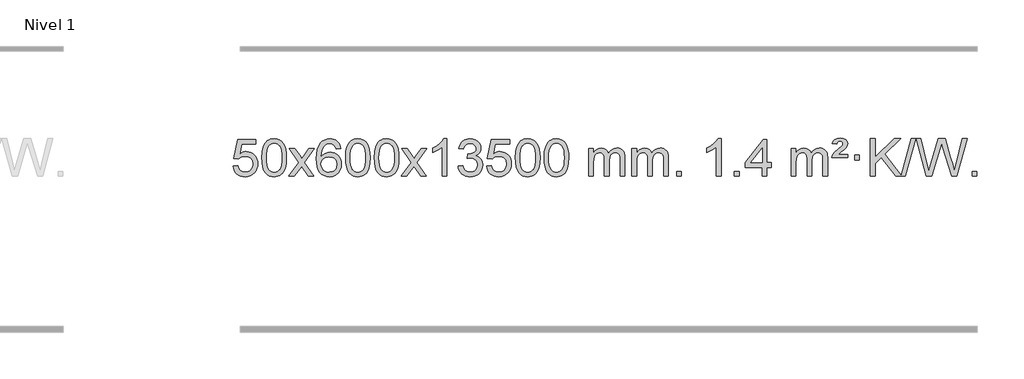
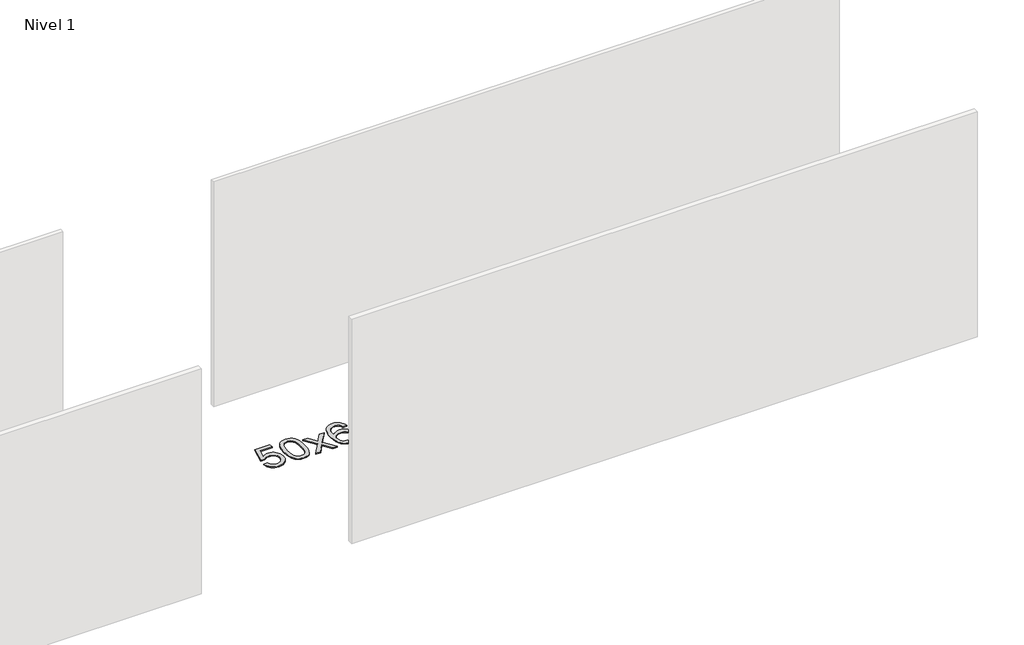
# One storey, part 10 of 12: 1 proxy.
"""IFC4 building model written with IfcOpenShell, lengths in millimetres."""

from ifc_helpers import new_model, si_unit, origin, origin_with_axes, place, context, project, spatial, polyline, outline, extrude, element, save

model = new_model("IFC4")

# Units and contexts
model_context = context("Model", 3, world=origin())
ifc_project = project(units=[si_unit("LENGTHUNIT", "METRE", prefix="MILLI")], contexts=[model_context])

# Site, building, storey
site = spatial("IfcSite", under=ifc_project)
building = spatial("IfcBuilding", under=site)
storey = spatial("IfcBuildingStorey", under=building, Name="Nivel 1", Elevation=0.0)

# Proxy
placement = place(None, origin())
element("IfcBuildingElementProxy", 1, Name="Texto de modelo 1", ObjectType="Texto de modelo 1", at=placement, inside=storey, context=model_context, shape_type="SweptSolid", body=[
    extrude(outline(polyline([(-1909.9934354, -284.8446235), (-1859.7652803, -278.5661041), (-1850.543705, -308.7201649), (-1834.454999, -330.3148381), (-1811.5727389, -343.3010725), (-1781.9705011, -347.6298173), (-1762.8406373, -346.1245668), (-1745.9671165, -341.6088153), (-1731.3499385, -334.0825628), (-1718.9891035, -323.5458094), (-1709.1605228, -310.519721), (-1702.1401081, -295.5254641), (-1696.5237763, -259.6324441), (-1701.7844888, -225.8363514), (-1708.3603795, -211.9181493), (-1717.5666264, -199.9865099), (-1729.4338865, -190.4154467), (-1743.9928164, -183.5789729), (-1781.1856861, -178.1097939), (-1805.5517369, -180.2925604), (-1825.2824746, -186.8408599), (-1841.0400868, -196.8717757), (-1853.4867609, -209.5023908), (-1903.714916, -203.2238715), (-1859.7652803, 3.9672682), (-1665.1311794, 3.9672682), (-1665.1311794, -46.2608869), (-1819.151108, -46.2608869), (-1840.6354166, -156.919791), (-1822.9096358, -144.2155994), (-1804.7546593, -135.1411769), (-1786.1704872, -129.6965234), (-1767.1571194, -127.8816388), (-1742.6960324, -130.1318504), (-1720.2276395, -136.882485), (-1699.7519408, -148.1335427), (-1681.2689362, -163.8850234), (-1665.9681109, -183.1743027), (-1655.03895, -205.038756), (-1648.4814534, -229.4783832), (-1646.2956212, -256.4931844), (-1648.2637899, -282.5147042), (-1654.1682959, -306.7213394), (-1664.0091393, -329.1130902), (-1677.78632, -349.6899565), (-1698.6574919, -370.7634634), (-1723.01128, -385.8159684), (-1750.8476843, -394.8474714), (-1782.1667048, -397.8579724), (-1808.087057, -395.9235262), (-1831.4996803, -390.1201877), (-1852.4045747, -380.447957), (-1870.8017402, -366.9068338), (-1886.1086968, -350.1712688), (-1897.7429649, -330.915712), (-1905.7045445, -309.1401636), (-1909.9934354, -284.8446235)])), origin_with_axes(), (0.0, 0.0, 1.0), 10.0),
    extrude(outline(polyline([(-1602.3459855, -193.9041943), (-1598.6549029, -129.5861588), (-1587.5816548, -78.2911459), (-1569.236606, -39.2343407), (-1557.378543, -24.0009605), (-1543.730121, -11.6309284), (-1528.2453547, -2.0598651), (-1510.8782588, 4.7766086), (-1470.4970785, 10.2457876), (-1439.5459399, 7.008426), (-1411.832163, -2.7036586), (-1388.6555973, -18.5103217), (-1371.3160926, -40.0314184), (-1358.2194935, -67.0830078), (-1347.7716449, -99.4811488), (-1340.9290398, -140.6226186), (-1338.6481714, -193.9041943), (-1342.3024659, -257.8543477), (-1353.2653493, -309.0267333), (-1371.5000336, -348.1203266), (-1383.3305054, -363.3996922), (-1396.9697304, -375.8341036), (-1412.4728908, -385.4695462), (-1429.8951689, -392.3520052), (-1470.4970785, -397.8579724), (-1498.1618045, -395.4667394), (-1522.6872709, -388.2930405), (-1544.0734775, -376.3368757), (-1562.3204245, -359.5982449), (-1579.8316074, -329.3399508), (-1592.3395953, -291.6381776), (-1599.844388, -246.4929255), (-1602.3459855, -193.9041943)]), holes=[polyline([(-1552.1178305, -193.8060924), (-1550.6463025, -237.4706195), (-1546.2317185, -272.8148822), (-1538.8740786, -299.8388804), (-1528.5733828, -318.5426142), (-1516.1144459, -331.2682656), (-1502.2820829, -340.3580165), (-1487.0762937, -345.8118671), (-1470.4970785, -347.6298173), (-1453.9178632, -345.8057357), (-1438.7120741, -340.3334911), (-1424.8797111, -331.2130833), (-1412.4207742, -318.4445124), (-1402.1200783, -299.7101217), (-1394.7624384, -272.6922549), (-1390.3478545, -237.3909118), (-1388.8763265, -193.8060924), (-1390.2988035, -151.2973278), (-1394.5662347, -116.5753989), (-1401.6786199, -89.6403055), (-1411.6359592, -70.4920476), (-1423.8864297, -57.1440625), (-1437.8782082, -47.6097875), (-1453.6112949, -41.8892225), (-1471.0856897, -39.9823675), (-1487.5790658, -41.6623619), (-1502.5273375, -46.7023452), (-1515.9305049, -55.1023175), (-1527.7885679, -66.8622786), (-1538.4326203, -87.708925), (-1546.0355148, -115.8151094), (-1550.5972516, -151.1808319), (-1552.1178305, -193.8060924)])]), origin_with_axes(), (0.0, 0.0, 1.0), 10.0),
    extrude(outline(polyline([(-1313.5340939, -391.579453), (-1206.2106531, -243.2494325), (-1307.2555745, -96.4890419), (-1246.8248254, -96.4890419), (-1198.0681983, -167.122385), (-1175.3085655, -200.4770192), (-1155.5900906, -173.2047007), (-1100.0644348, -96.4890419), (-1039.6336857, -96.4890419), (-1145.7799041, -243.2494325), (-1043.5577603, -391.579453), (-1103.9885094, -391.579453), (-1165.498379, -302.4048574), (-1176.7800935, -286.1199477), (-1253.1033448, -391.579453), (-1313.5340939, -391.579453)])), origin_with_axes(), (0.0, 0.0, 1.0), 10.0),
    extrude(outline(polyline([(-754.7458687, -96.4890419), (-804.9740237, -102.7675613), (-813.0674276, -77.874213), (-824.0057856, -60.8780648), (-846.7899439, -45.2062918), (-874.3320426, -39.9823675), (-897.6802865, -43.0235253), (-919.6551044, -52.1469988), (-938.5274507, -71.3627017), (-953.9417063, -97.8134171), (-964.3527668, -135.227016), (-968.2155277, -187.3313693), (-948.0678571, -163.8237098), (-923.9225355, -147.2567573), (-897.1284635, -137.434308), (-869.0345418, -134.1601582), (-844.9014829, -136.398107), (-822.6323595, -143.1119534), (-802.2271715, -154.3016975), (-783.6859189, -169.9673391), (-768.2777947, -189.1769106), (-757.2719917, -210.9984443), (-750.6685099, -235.4319401), (-748.4673493, -262.4773982), (-752.6121531, -298.4439945), (-765.0465645, -331.786366), (-784.740514, -360.0642287), (-810.6639319, -380.8372987), (-841.6395959, -393.602804), (-876.4902836, -397.8579724), (-906.4328123, -395.0375437), (-933.4752046, -386.5762579), (-957.6174606, -372.4741147), (-978.8595801, -352.7311143), (-996.177625, -326.5133908), (-1008.5476571, -292.9870783), (-1015.9696764, -252.1521768), (-1018.4436828, -204.0086864), (-1015.6968306, -150.0342663), (-1007.4562739, -103.9693092), (-993.7220127, -65.8138149), (-974.4940471, -35.5677835), (-953.6535321, -15.5243462), (-929.4898164, -1.2076052), (-902.0029, 7.3824394), (-871.1927829, 10.2457876), (-848.0591367, 8.4738227), (-827.1205198, 3.1579278), (-808.3769322, -5.7018969), (-791.8283738, -18.1056515), (-777.9224344, -33.6364031), (-767.1067037, -51.8772186), (-759.3811818, -72.8280983), (-754.7458687, -96.4890419)]), holes=[polyline([(-968.2155277, -261.6925832), (-965.30926, -283.9494439), (-956.5904567, -305.2007605), (-943.0523993, -323.472233), (-925.6883691, -336.7895612), (-904.7313581, -344.9197533), (-880.4143582, -347.6298173), (-847.2681904, -342.0134855), (-833.353054, -334.9930708), (-821.2098825, -325.1644901), (-811.359842, -312.9262824), (-804.3240989, -298.6769865), (-798.6955043, -264.1451299), (-804.2505225, -230.9989621), (-811.1942951, -217.3781312), (-820.9155769, -205.725469), (-833.0955366, -196.3904634), (-847.4153432, -189.7226022), (-882.4744974, -184.3883133), (-915.5716142, -189.7226022), (-943.248603, -205.725469), (-954.1716326, -217.2248471), (-961.9737965, -230.3858254), (-966.6550949, -245.2084042), (-968.2155277, -261.6925832)])]), origin_with_axes(), (0.0, 0.0, 1.0), 10.0),
    extrude(outline(polyline([(-704.5177136, -193.9041943), (-700.8266309, -129.5861588), (-689.7533828, -78.2911459), (-671.408334, -39.2343407), (-659.550271, -24.0009605), (-645.901849, -11.6309284), (-630.4170827, -2.0598651), (-613.0499869, 4.7766086), (-572.6688065, 10.2457876), (-541.717668, 7.008426), (-514.003891, -2.7036586), (-490.8273253, -18.5103217), (-473.4878206, -40.0314184), (-460.3912216, -67.0830078), (-449.9433729, -99.4811488), (-443.1007678, -140.6226186), (-440.8198994, -193.9041943), (-444.4741939, -257.8543477), (-455.4370774, -309.0267333), (-473.6717616, -348.1203266), (-485.5022334, -363.3996922), (-499.1414584, -375.8341036), (-514.6446188, -385.4695462), (-532.066897, -392.3520052), (-572.6688065, -397.8579724), (-600.3335326, -395.4667394), (-624.8589989, -388.2930405), (-646.2452055, -376.3368757), (-664.4921525, -359.5982449), (-682.0033355, -329.3399508), (-694.5113233, -291.6381776), (-702.016116, -246.4929255), (-704.5177136, -193.9041943)]), holes=[polyline([(-654.2895585, -193.8060924), (-652.8180305, -237.4706195), (-648.4034466, -272.8148822), (-641.0458067, -299.8388804), (-630.7451108, -318.5426142), (-618.2861739, -331.2682656), (-604.4538109, -340.3580165), (-589.2480218, -345.8118671), (-572.6688065, -347.6298173), (-556.0895913, -345.8057357), (-540.8838021, -340.3334911), (-527.0514391, -331.2130833), (-514.5925022, -318.4445124), (-504.2918063, -299.7101217), (-496.9341664, -272.6922549), (-492.5195825, -237.3909118), (-491.0480545, -193.8060924), (-492.4705316, -151.2973278), (-496.7379627, -116.5753989), (-503.8503479, -89.6403055), (-513.8076873, -70.4920476), (-526.0581577, -57.1440625), (-540.0499363, -47.6097875), (-555.7830229, -41.8892225), (-573.2574177, -39.9823675), (-589.7507938, -41.6623619), (-604.6990656, -46.7023452), (-618.1022329, -55.1023175), (-629.9602959, -66.8622786), (-640.6043483, -87.708925), (-648.2072429, -115.8151094), (-652.7689796, -151.1808319), (-654.2895585, -193.8060924)])]), origin_with_axes(), (0.0, 0.0, 1.0), 10.0),
    extrude(outline(polyline([(-396.8702638, -193.9041943), (-393.1791811, -129.5861588), (-382.105933, -78.2911459), (-363.7608842, -39.2343407), (-351.9028212, -24.0009605), (-338.2543992, -11.6309284), (-322.7696329, -2.0598651), (-305.402537, 4.7766086), (-265.0213567, 10.2457876), (-234.0702182, 7.008426), (-206.3564412, -2.7036586), (-183.1798755, -18.5103217), (-165.8403708, -40.0314184), (-152.7437718, -67.0830078), (-142.2959231, -99.4811488), (-135.453318, -140.6226186), (-133.1724496, -193.9041943), (-136.8267441, -257.8543477), (-147.7896275, -309.0267333), (-166.0243118, -348.1203266), (-177.8547836, -363.3996922), (-191.4940086, -375.8341036), (-206.997169, -385.4695462), (-224.4194471, -392.3520052), (-265.0213567, -397.8579724), (-292.6860827, -395.4667394), (-317.2115491, -388.2930405), (-338.5977557, -376.3368757), (-356.8447027, -359.5982449), (-374.3558856, -329.3399508), (-386.8638735, -291.6381776), (-394.3686662, -246.4929255), (-396.8702638, -193.9041943)]), holes=[polyline([(-346.6421087, -193.8060924), (-345.1705807, -237.4706195), (-340.7559968, -272.8148822), (-333.3983568, -299.8388804), (-323.097661, -318.5426142), (-310.6387241, -331.2682656), (-296.8063611, -340.3580165), (-281.6005719, -345.8118671), (-265.0213567, -347.6298173), (-248.4421414, -345.8057357), (-233.2363523, -340.3334911), (-219.4039893, -331.2130833), (-206.9450524, -318.4445124), (-196.6443565, -299.7101217), (-189.2867166, -272.6922549), (-184.8721327, -237.3909118), (-183.4006047, -193.8060924), (-184.8230817, -151.2973278), (-189.0905129, -116.5753989), (-196.2028981, -89.6403055), (-206.1602375, -70.4920476), (-218.4107079, -57.1440625), (-232.4024864, -47.6097875), (-248.1355731, -41.8892225), (-265.6099679, -39.9823675), (-282.103344, -41.6623619), (-297.0516157, -46.7023452), (-310.4547831, -55.1023175), (-322.3128461, -66.8622786), (-332.9568985, -87.708925), (-340.559793, -115.8151094), (-345.1215298, -151.1808319), (-346.6421087, -193.8060924)])]), origin_with_axes(), (0.0, 0.0, 1.0), 10.0),
    extrude(outline(polyline([(-108.0583721, -391.579453), (-0.7349313, -243.2494325), (-101.7798527, -96.4890419), (-41.3491036, -96.4890419), (7.4075235, -167.122385), (30.1671563, -200.4770192), (49.8856312, -173.2047007), (105.411287, -96.4890419), (165.8420361, -96.4890419), (59.6958177, -243.2494325), (161.9179615, -391.579453), (101.4872124, -391.579453), (39.9773428, -302.4048574), (28.6956283, -286.1199477), (-47.627623, -391.579453), (-108.0583721, -391.579453)])), origin_with_axes(), (0.0, 0.0, 1.0), 10.0),
    extrude(outline(polyline([(381.6661399, -391.579453), (331.4379848, -391.579453), (331.4379848, -78.4382987), (310.4687111, -95.3976587), (283.8585801, -112.3324932), (230.9816747, -137.6918254), (230.9816747, -90.2105225), (270.4308873, -68.7507395), (304.6071247, -43.219729), (331.5483494, -16.0700378), (349.2925243, 10.2457876), (381.6661399, 10.2457876), (381.6661399, -391.579453)])), origin_with_axes(), (0.0, 0.0, 1.0), 10.0),
    extrude(outline(polyline([(500.9580082, -284.8446235), (551.1861633, -278.5661041), (562.4310896, -310.1303793), (578.8999403, -331.4430095), (601.4020556, -343.5831154), (630.7467761, -347.6298173), (665.1805309, -342.0625364), (679.4543523, -335.1034354), (691.7661364, -325.3606939), (708.7622846, -300.4428201), (714.4276673, -270.2274455), (708.8113355, -241.5449126), (691.9623401, -218.2825078), (666.4558551, -202.8682522), (634.8670545, -197.730167), (599.6484848, -203.2238715), (605.2402911, -152.9957164), (613.2846441, -153.5843276), (643.3773913, -149.979084), (670.2818279, -139.1633534), (681.3550759, -130.9841103), (689.2645388, -120.8673555), (694.0102165, -108.8130888), (695.5921091, -94.8213102), (691.0058469, -73.1285352), (677.2470603, -55.5315131), (656.2532611, -43.8696539), (629.9619612, -39.9823675), (603.6216103, -43.9064421), (582.0882509, -55.6786659), (566.367427, -75.299039), (557.4646827, -102.7675613), (507.2365276, -96.4890419), (513.1900846, -72.5092672), (522.0253838, -51.3867093), (533.7424253, -33.1213683), (548.3412092, -17.713244), (565.3618828, -5.4811677), (584.3445938, 3.2560297), (605.289342, 8.4983481), (628.1961276, 10.2457876), (659.7726655, 6.7999596), (688.7740295, -3.5375245), (713.2259194, -19.8469596), (731.1540353, -41.2086408), (742.153707, -65.8199463), (745.8202642, -91.8782543), (742.337648, -116.1584659), (731.8897993, -138.1823347), (714.623871, -156.9443165), (690.6870159, -171.4388671), (722.1286637, -184.1430586), (745.4278567, -205.77452), (759.848831, -235.1560286), (764.6558224, -271.1103623), (762.2523267, -296.5923218), (755.0418395, -320.0631931), (743.024361, -341.5229762), (726.1998911, -360.971671), (705.7027326, -377.1094278), (682.6671884, -388.636397), (657.0932583, -395.5525785), (628.9809425, -397.8579724), (603.5725594, -395.8898037), (580.4205192, -389.9852977), (559.5248218, -380.1444543), (540.8854674, -366.3672736), (525.256614, -349.4630959), (513.3924196, -330.2412617), (505.2928844, -308.7017708), (500.9580082, -284.8446235)])), origin_with_axes(), (0.0, 0.0, 1.0), 10.0),
    extrude(outline(polyline([(808.605458, -284.8446235), (858.8336131, -278.5661041), (868.0551885, -308.7201649), (884.1438944, -330.3148381), (907.0261545, -343.3010725), (936.6283924, -347.6298173), (955.7582561, -346.1245668), (972.631777, -341.6088153), (987.2489549, -334.0825628), (999.6097899, -323.5458094), (1009.4383706, -310.519721), (1016.4587853, -295.5254641), (1022.0751171, -259.6324441), (1016.8144046, -225.8363514), (1010.2385139, -211.9181493), (1001.032267, -199.9865099), (989.165007, -190.4154467), (974.606077, -183.5789729), (937.4132073, -178.1097939), (913.0471565, -180.2925604), (893.3164188, -186.8408599), (877.5588067, -196.8717757), (865.1121325, -209.5023908), (814.8839774, -203.2238715), (858.8336131, 3.9672682), (1053.467714, 3.9672682), (1053.467714, -46.2608869), (899.4477854, -46.2608869), (877.9634769, -156.919791), (895.6892577, -144.2155994), (913.8442341, -135.1411769), (932.4284063, -129.6965234), (951.441774, -127.8816388), (975.902861, -130.1318504), (998.3712539, -136.882485), (1018.8469526, -148.1335427), (1037.3299572, -163.8850234), (1052.6307825, -183.1743027), (1063.5599434, -205.038756), (1070.11744, -229.4783832), (1072.3032722, -256.4931844), (1070.3351035, -282.5147042), (1064.4305975, -306.7213394), (1054.5897541, -329.1130902), (1040.8125734, -349.6899565), (1019.9414015, -370.7634634), (995.5876135, -385.8159684), (967.7512092, -394.8474714), (936.4321886, -397.8579724), (910.5118364, -395.9235262), (887.0992131, -390.1201877), (866.1943187, -380.447957), (847.7971533, -366.9068338), (832.4901966, -350.1712688), (820.8559285, -330.915712), (812.894349, -309.1401636), (808.605458, -284.8446235)])), origin_with_axes(), (0.0, 0.0, 1.0), 10.0),
    extrude(outline(polyline([(1116.2529079, -193.9041943), (1119.9439906, -129.5861588), (1131.0172386, -78.2911459), (1149.3622874, -39.2343407), (1161.2203504, -24.0009605), (1174.8687724, -11.6309284), (1190.3535388, -2.0598651), (1207.7206346, 4.7766086), (1248.1018149, 10.2457876), (1279.0529535, 7.008426), (1306.7667304, -2.7036586), (1329.9432961, -18.5103217), (1347.2828008, -40.0314184), (1360.3793999, -67.0830078), (1370.8272485, -99.4811488), (1377.6698537, -140.6226186), (1379.950722, -193.9041943), (1376.2964275, -257.8543477), (1365.3335441, -309.0267333), (1347.0988599, -348.1203266), (1335.268388, -363.3996922), (1321.6291631, -375.8341036), (1306.1260026, -385.4695462), (1288.7037245, -392.3520052), (1248.1018149, -397.8579724), (1220.4370889, -395.4667394), (1195.9116226, -388.2930405), (1174.5254159, -376.3368757), (1156.278469, -359.5982449), (1138.767286, -329.3399508), (1126.2592981, -291.6381776), (1118.7545054, -246.4929255), (1116.2529079, -193.9041943)]), holes=[polyline([(1166.481063, -193.8060924), (1167.9525909, -237.4706195), (1172.3671749, -272.8148822), (1179.7248148, -299.8388804), (1190.0255106, -318.5426142), (1202.4844475, -331.2682656), (1216.3168106, -340.3580165), (1231.5225997, -345.8118671), (1248.1018149, -347.6298173), (1264.6810302, -345.8057357), (1279.8868193, -340.3334911), (1293.7191824, -331.2130833), (1306.1781193, -318.4445124), (1316.4788151, -299.7101217), (1323.836455, -272.6922549), (1328.251039, -237.3909118), (1329.7225669, -193.8060924), (1328.3000899, -151.2973278), (1324.0326588, -116.5753989), (1316.9202735, -89.6403055), (1306.9629342, -70.4920476), (1294.7124637, -57.1440625), (1280.7206852, -47.6097875), (1264.9875985, -41.8892225), (1247.5132038, -39.9823675), (1231.0198276, -41.6623619), (1216.0715559, -46.7023452), (1202.6683885, -55.1023175), (1190.8103256, -66.8622786), (1180.1662732, -87.708925), (1172.5633786, -115.8151094), (1168.0016419, -151.1808319), (1166.481063, -193.8060924)])]), origin_with_axes(), (0.0, 0.0, 1.0), 10.0),
    extrude(outline(polyline([(1423.9003577, -193.9041943), (1427.5914404, -129.5861588), (1438.6646885, -78.2911459), (1457.0097373, -39.2343407), (1468.8678003, -24.0009605), (1482.5162223, -11.6309284), (1498.0009886, -2.0598651), (1515.3680844, 4.7766086), (1555.7492648, 10.2457876), (1586.7004033, 7.008426), (1614.4141803, -2.7036586), (1637.590746, -18.5103217), (1654.9302507, -40.0314184), (1668.0268497, -67.0830078), (1678.4746984, -99.4811488), (1685.3173035, -140.6226186), (1687.5981719, -193.9041943), (1683.9438774, -257.8543477), (1672.9809939, -309.0267333), (1654.7463097, -348.1203266), (1642.9158379, -363.3996922), (1629.2766129, -375.8341036), (1613.7734525, -385.4695462), (1596.3511743, -392.3520052), (1555.7492648, -397.8579724), (1528.0845387, -395.4667394), (1503.5590724, -388.2930405), (1482.1728657, -376.3368757), (1463.9259188, -359.5982449), (1446.4147358, -329.3399508), (1433.906748, -291.6381776), (1426.4019553, -246.4929255), (1423.9003577, -193.9041943)]), holes=[polyline([(1474.1285128, -193.8060924), (1475.6000408, -237.4706195), (1480.0146247, -272.8148822), (1487.3722646, -299.8388804), (1497.6729605, -318.5426142), (1510.1318974, -331.2682656), (1523.9642604, -340.3580165), (1539.1700495, -345.8118671), (1555.7492648, -347.6298173), (1572.32848, -345.8057357), (1587.5342692, -340.3334911), (1601.3666322, -331.2130833), (1613.8255691, -318.4445124), (1624.126265, -299.7101217), (1631.4839049, -272.6922549), (1635.8984888, -237.3909118), (1637.3700168, -193.8060924), (1635.9475397, -151.2973278), (1631.6801086, -116.5753989), (1624.5677233, -89.6403055), (1614.610384, -70.4920476), (1602.3599136, -57.1440625), (1588.368135, -47.6097875), (1572.6350484, -41.8892225), (1555.1606536, -39.9823675), (1538.6672775, -41.6623619), (1523.7190057, -46.7023452), (1510.3158384, -55.1023175), (1498.4577754, -66.8622786), (1487.813723, -87.708925), (1480.2108284, -115.8151094), (1475.6490917, -151.1808319), (1474.1285128, -193.8060924)])]), origin_with_axes(), (0.0, 0.0, 1.0), 10.0),
    extrude(outline(polyline([(1901.0678309, -391.579453), (1901.0678309, -96.4890419), (1951.295986, -96.4890419), (1951.295986, -145.0494653), (1966.4036733, -122.7435537), (1985.8278426, -105.2691589), (2008.9063064, -93.9751816), (2034.9768772, -90.2105225), (2062.9113833, -94.048758), (2085.3031341, -105.5634645), (2102.0295022, -123.9943524), (2112.9678601, -148.5811324), (2131.2761208, -123.0439906), (2152.1595554, -104.803175), (2175.6181639, -93.8586857), (2201.6519464, -90.2105225), (2221.7597632, -91.7280358), (2239.4089019, -96.2805755), (2254.5993626, -103.8681416), (2267.3311453, -114.4907342), (2277.3957836, -128.2709806), (2284.5848109, -145.3315082), (2288.8982273, -165.6723168), (2290.3360328, -189.2934066), (2290.3360328, -391.579453), (2240.1078777, -391.579453), (2240.1078777, -210.875817), (2238.942918, -185.8230531), (2235.4480391, -168.9372695), (2228.8997396, -157.3735121), (2218.5745182, -148.2868268), (2205.2939782, -142.4007149), (2189.8797226, -140.4386776), (2162.6687177, -145.4663982), (2140.4854334, -160.54956), (2131.8800604, -172.1194488), (2125.7333654, -186.7182326), (2120.8160094, -225.0024856), (2120.8160094, -391.579453), (2070.5878543, -391.579453), (2070.5878543, -205.2840106), (2067.6815865, -176.8835206), (2058.9627833, -156.6254854), (2043.6221041, -144.4853796), (2020.8502086, -140.4386776), (2001.4996156, -143.1364789), (1983.6696016, -151.2298828), (1968.9543218, -164.5226856), (1958.9479315, -182.8186835), (1953.2089724, -208.2025411), (1951.295986, -242.7589232), (1951.295986, -391.579453), (1901.0678309, -391.579453)])), origin_with_axes(), (0.0, 0.0, 1.0), 10.0),
    extrude(outline(polyline([(2365.6782654, -391.579453), (2365.6782654, -96.4890419), (2415.9064204, -96.4890419), (2415.9064204, -145.0494653), (2431.0141077, -122.7435537), (2450.4382771, -105.2691589), (2473.5167409, -93.9751816), (2499.5873116, -90.2105225), (2527.5218178, -94.048758), (2549.9135685, -105.5634645), (2566.6399366, -123.9943524), (2577.5782946, -148.5811324), (2595.8865552, -123.0439906), (2616.7699898, -104.803175), (2640.2285984, -93.8586857), (2666.2623809, -90.2105225), (2686.3701976, -91.7280358), (2704.0193363, -96.2805755), (2719.209797, -103.8681416), (2731.9415798, -114.4907342), (2742.006218, -128.2709806), (2749.1952453, -145.3315082), (2753.5086617, -165.6723168), (2754.9464672, -189.2934066), (2754.9464672, -391.579453), (2704.7183121, -391.579453), (2704.7183121, -210.875817), (2703.5533525, -185.8230531), (2700.0584735, -168.9372695), (2693.510174, -157.3735121), (2683.1849527, -148.2868268), (2669.9044126, -142.4007149), (2654.490157, -140.4386776), (2627.2791521, -145.4663982), (2605.0958678, -160.54956), (2596.4904948, -172.1194488), (2590.3437998, -186.7182326), (2585.4264438, -225.0024856), (2585.4264438, -391.579453), (2535.1982887, -391.579453), (2535.1982887, -205.2840106), (2532.292021, -176.8835206), (2523.5732177, -156.6254854), (2508.2325385, -144.4853796), (2485.460643, -140.4386776), (2466.11005, -143.1364789), (2448.280036, -151.2298828), (2433.5647562, -164.5226856), (2423.5583659, -182.8186835), (2417.8194068, -208.2025411), (2415.9064204, -242.7589232), (2415.9064204, -391.579453), (2365.6782654, -391.579453)])), origin_with_axes(), (0.0, 0.0, 1.0), 10.0),
    extrude(outline(polyline([(2842.8457386, -391.579453), (2842.8457386, -341.3512979), (2893.0738936, -341.3512979), (2893.0738936, -391.579453), (2842.8457386, -391.579453)])), origin_with_axes(), (0.0, 0.0, 1.0), 10.0),
    extrude(outline(polyline([(3320.0132118, -391.579453), (3269.7850567, -391.579453), (3269.7850567, -78.4382987), (3248.815783, -95.3976587), (3222.205652, -112.3324932), (3169.3287466, -137.6918254), (3169.3287466, -90.2105225), (3208.7779592, -68.7507395), (3242.9541965, -43.219729), (3269.8954213, -16.0700378), (3287.6395962, 10.2457876), (3320.0132118, 10.2457876), (3320.0132118, -391.579453)])), origin_with_axes(), (0.0, 0.0, 1.0), 10.0),
    extrude(outline(polyline([(3464.4191576, -391.579453), (3464.4191576, -341.3512979), (3514.6473127, -341.3512979), (3514.6473127, -391.579453), (3464.4191576, -391.579453)])), origin_with_axes(), (0.0, 0.0, 1.0), 10.0),
    extrude(outline(polyline([(3759.5095687, -391.579453), (3759.5095687, -297.4016622), (3577.4325065, -297.4016622), (3577.4325065, -247.1735072), (3772.0666075, 3.9672682), (3809.7377238, 3.9672682), (3809.7377238, -247.1735072), (3859.9658788, -247.1735072), (3859.9658788, -297.4016622), (3809.7377238, -297.4016622), (3809.7377238, -391.579453), (3759.5095687, -391.579453)]), holes=[polyline([(3759.5095687, -247.1735072), (3759.5095687, -91.9763561), (3639.2366817, -247.1735072), (3759.5095687, -247.1735072)])]), origin_with_axes(), (0.0, 0.0, 1.0), 10.0),
    extrude(outline(polyline([(4073.4355379, -391.579453), (4073.4355379, -96.4890419), (4123.663693, -96.4890419), (4123.663693, -145.0494653), (4138.7713803, -122.7435537), (4158.1955496, -105.2691589), (4181.2740134, -93.9751816), (4207.3445842, -90.2105225), (4235.2790903, -94.048758), (4257.6708411, -105.5634645), (4274.3972091, -123.9943524), (4285.3355671, -148.5811324), (4303.6438278, -123.0439906), (4324.5272623, -104.803175), (4347.9858709, -93.8586857), (4374.0196534, -90.2105225), (4394.1274702, -91.7280358), (4411.7766089, -96.2805755), (4426.9670696, -103.8681416), (4439.6988523, -114.4907342), (4449.7634906, -128.2709806), (4456.9525179, -145.3315082), (4461.2659343, -165.6723168), (4462.7037397, -189.2934066), (4462.7037397, -391.579453), (4412.4755847, -391.579453), (4412.4755847, -210.875817), (4411.310625, -185.8230531), (4407.8157461, -168.9372695), (4401.2674465, -157.3735121), (4390.9422252, -148.2868268), (4377.6616852, -142.4007149), (4362.2474296, -140.4386776), (4335.0364247, -145.4663982), (4312.8531404, -160.54956), (4304.2477674, -172.1194488), (4298.1010724, -186.7182326), (4293.1837164, -225.0024856), (4293.1837164, -391.579453), (4242.9555613, -391.579453), (4242.9555613, -205.2840106), (4240.0492935, -176.8835206), (4231.3304902, -156.6254854), (4215.989811, -144.4853796), (4193.2179155, -140.4386776), (4173.8673226, -143.1364789), (4156.0373086, -151.2298828), (4141.3220287, -164.5226856), (4131.3156385, -182.8186835), (4125.5766794, -208.2025411), (4123.663693, -242.7589232), (4123.663693, -391.579453), (4073.4355379, -391.579453)])), origin_with_axes(), (0.0, 0.0, 1.0), 10.0),
    extrude(outline(polyline([(4506.6533754, -190.6668327), (4510.4793482, -174.8479069), (4518.8180067, -158.9799302), (4540.3268407, -133.8413272), (4572.2835234, -106.1030247), (4616.4293628, -68.726214), (4623.5662735, -57.1992448), (4625.9452437, -45.3779701), (4624.0567828, -33.2869152), (4618.3914001, -23.5012541), (4609.022672, -17.026531), (4596.0241748, -14.8682899), (4583.5897634, -16.4869707), (4574.73607, -21.343013), (4568.3103978, -30.8098431), (4563.1600499, -46.2608869), (4512.9318948, -39.9823675), (4523.7721509, -14.7701881), (4540.4004171, 2.7900458), (4564.165594, 13.0907417), (4596.4165822, 16.524307), (4632.1992376, 12.3917659), (4656.9454332, -0.0058573), (4671.3664074, -18.3386434), (4676.1733988, -40.2766731), (4672.0776459, -63.1834586), (4659.7903873, -84.8149199), (4639.262572, -104.6314968), (4602.7932035, -132.6886303), (4577.1886166, -159.2742358), (4676.1733988, -159.2742358), (4676.1733988, -190.6668327), (4506.6533754, -190.6668327)])), origin_with_axes(), (0.0, 0.0, 1.0), 10.0),
    extrude(outline(polyline([(4751.5156314, -215.7809102), (4751.5156314, -165.5527552), (4801.7437865, -165.5527552), (4801.7437865, -215.7809102), (4751.5156314, -215.7809102)])), origin_with_axes(), (0.0, 0.0, 1.0), 10.0),
    extrude(outline(polyline([(5192.3854144, -391.579453), (5038.954097, -188.9009991), (4971.2638099, -253.4520265), (4971.2638099, -391.579453), (4921.0356548, -391.579453), (4921.0356548, 10.2457876), (4971.2638099, 10.2457876), (4971.2638099, -186.4484525), (5177.2777272, 10.2457876), (5247.5186628, 10.2457876), (5074.5650741, -154.9577537), (5249.218684, -385.5349332), (5360.5320117, 10.2457876), (5405.8550735, 10.2457876), (5292.8417246, -391.579453), (5253.7971822, -391.579453), (5247.5186628, -391.579453), (5192.3854144, -391.579453)])), origin_with_axes(), (0.0, 0.0, 1.0), 10.0),
    extrude(outline(polyline([(5520.3399504, -391.579453), (5410.7601668, 10.2457876), (5462.5579517, 10.2457876), (5526.1279605, -253.844434), (5545.7483335, -335.3670841), (5566.7421327, -263.2622131), (5646.4008474, 10.2457876), (5721.056367, 10.2457876), (5778.9364675, -188.0180823), (5803.731714, -261.5944814), (5822.0031864, -335.3670841), (5841.0349483, -256.1988788), (5905.1935683, 10.2457876), (5956.9913532, 10.2457876), (5847.3134677, -391.579453), (5793.6517474, -391.579453), (5697.3157155, -81.5775584), (5683.87576, -38.3146358), (5668.7680727, -90.4067263), (5580.9669032, -391.579453), (5520.3399504, -391.579453)])), origin_with_axes(), (0.0, 0.0, 1.0), 10.0),
    extrude(outline(polyline([(6013.4980277, -391.579453), (6013.4980277, -341.3512979), (6063.7261827, -341.3512979), (6063.7261827, -391.579453), (6013.4980277, -391.579453)])), origin_with_axes(), (0.0, 0.0, 1.0), 10.0),
])

save(model, "model.ifc")
